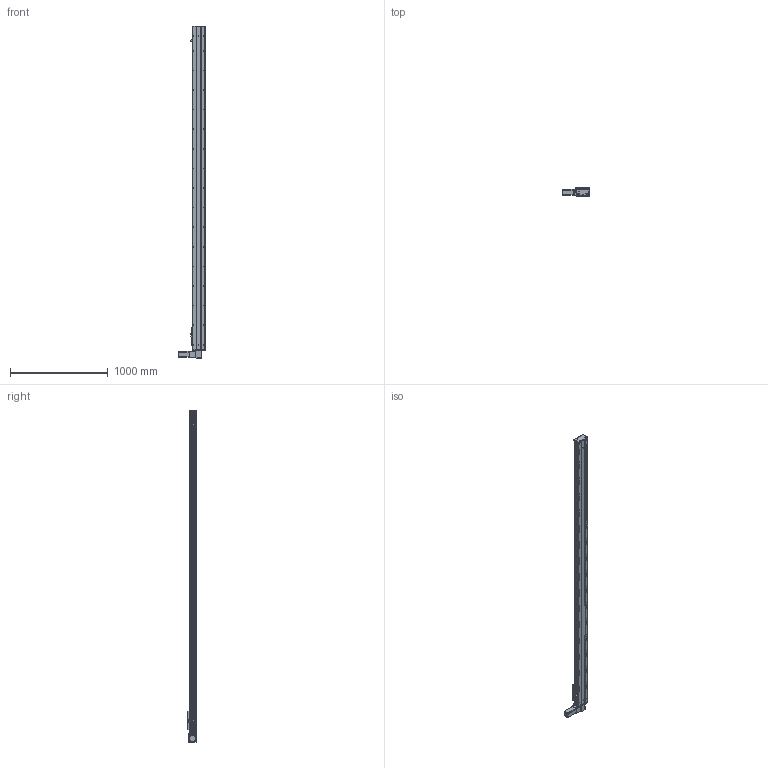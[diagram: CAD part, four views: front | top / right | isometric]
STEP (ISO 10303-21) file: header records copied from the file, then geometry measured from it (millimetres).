
FILE_DESCRIPTION (( 'STEP AP203' ), '1' );
FILE_NAME ('Y135CB-D90-S3000-BD-P400W.STEP', '2020-02-19T06:25:45', ( '微软用户' ), ( '微软中国' ), 'SwSTEP 2.0', 'SolidWorks 2017', '' );
FILE_SCHEMA (( 'CONFIG_CONTROL_DESIGN' ));
Length unit declared in the file: millimetre
Products named in the file (16): 135CB--詩湍-CE; Y135CB-耜裔; Y100-135俋离換覜ん--; 135CB---遴掛极.-; Y135C-陔俋离換覜結え-; 35CB---喘謫眊楊擘啣; 5C--俋欶; 0B-埴倛裔啣; 0B-源倛裔啣; C-雄赽釱--; san松下电机400不带刹车----; Y10B--々湍喘謫眊--666; 5CB --掛极耜裔啣-; 0B-薊粣ん眊; C-詩湍揤踡え-陔; Y135CB-D90-S3000-BD-P400W
Assembly tree (19 placements, depth 2):
  Y135CB-D90-S3000-BD-P400W
    Y135CB-耜裔
    135CB---遴掛极.-
    35CB---喘謫眊楊擘啣
    0B-埴倛裔啣
    0B-源倛裔啣
    san松下电机400不带刹车----
    5CB --掛极耜裔啣-  x2
    C-詩湍揤踡え-陔  x2
    135CB--詩湍-CE
    Y100-135俋离換覜ん--  x3
    Y135C-陔俋离換覜結え-
    5C--俋欶
    C-雄赽釱--
    Y10B--々湍喘謫眊--666
    0B-薊粣ん眊
Bounding box: 272 x 91 x 3388 mm (x, y, z)
Volume: 9580614.9 mm3; surface area: 3757541.9 mm2
Topology: 19 solids, 19 shells, 895 faces, 2446 edges, 1620 vertices
Faces by surface type: cylinder 464, plane 415, cone 16
Entity records: 28026 total; most frequent: CARTESIAN_POINT 4687, DIRECTION 4674, ORIENTED_EDGE 4368, EDGE_CURVE 2184, AXIS2_PLACEMENT_3D 1727, VERTEX_POINT 1448, LINE 1220, VECTOR 1220
